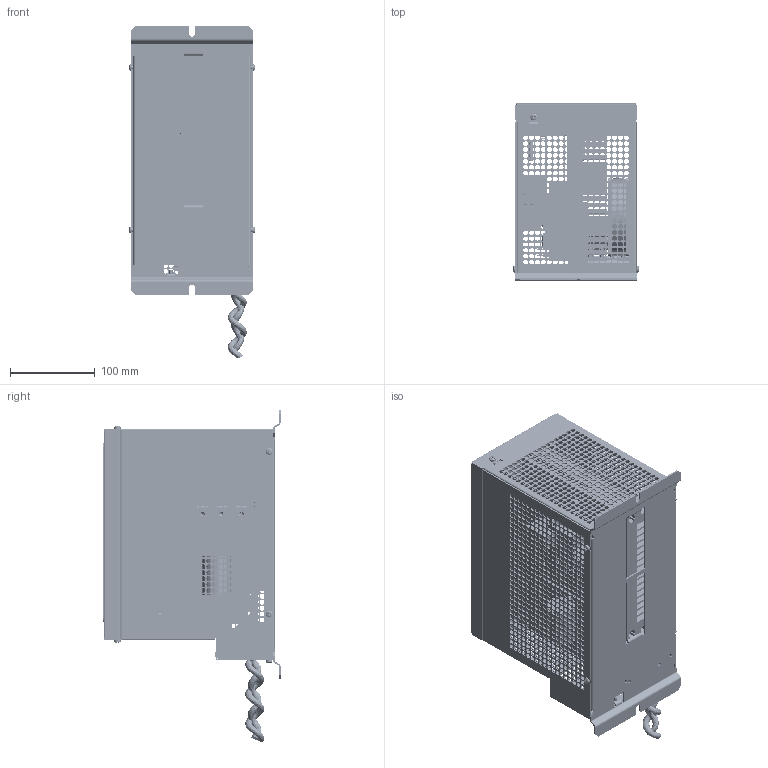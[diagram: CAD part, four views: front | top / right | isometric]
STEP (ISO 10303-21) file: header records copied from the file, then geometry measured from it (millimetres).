
FILE_DESCRIPTION((''),'2;1');
FILE_NAME('ESA3230','2015-09-11T',('giuseppe.bertuccio'),('GEFRAN S.p.A via Carducci,24 21040 Gerenzano (VA)'),'PRO/ENGINEER BY PARAMETRIC TECHNOLOGY CORPORATION, 2010480','PRO/ENGINEER BY PARAMETRIC TECHNOLOGY CORPORATION, 2010480','');
FILE_SCHEMA(('CONFIG_CONTROL_DESIGN'));
Products named in the file (46): EPZ3951; EPZ4110; FAN92X92; 6S8V50; S801V; 8S8F05; EAM2380; EAM1834; S8H75; ESE3139-MENTOR_AF0; RIVETTO_AF0; PHS1854330JSD_AF0; RIVETTO_AF1; RES_KP8W_AF1; RES_KP8W_AF0; RIVETTO_AF2; TO220AB_P10OR_AF0; ESE3139_1; ESE3036-MENTOR_AF0; LED_90; VERT_2P_500; COND_20P_1320; FILM_10P8_710_1260_AF6; RELE_175; RES_KP4W; PP; AMP2; MC1_5X5; FASTON; ESE3036_1; EPZ3149_1; S81E9; EAM1571_4; S82E0; S86N0; C-BUY; EPZ3955; EPZ3952_OLD; EPZ3952; EPZ3959_OLD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
Assembly tree (64 placements, depth 5):
  ESA3230
    EAM1798
      EPZ3951
      EAM1834
        EPZ4110
        EAM2380
          FAN92X92
          6S8V50
          S801V  x2
          8S8F05
      S8H75
      ESE3139_1
        ESE3139-MENTOR_AF0
        RIVETTO_AF0
        PHS1854330JSD_AF0
        RIVETTO_AF1
        RES_KP8W_AF1
        RES_KP8W_AF0
        RIVETTO_AF2
        TO220AB_P10OR_AF0
      ESE3036_1
        ESE3036-MENTOR_AF0
        LED_90  x4
        VERT_2P_500
        COND_20P_1320
        FILM_10P8_710_1260_AF6
        RELE_175
        RES_KP4W
        PP  x4
        AMP2  x3
        MC1_5X5
        FASTON  x2
      EPZ3149_1
      S81E9  x4
      EAM1571_4
      S82E0
      S86N0
      C-BUY
      EPZ3955
        EPZ3955
      EPZ3952
        EPZ3952_OLD
      EPZ3959_OLD
      8S8N09  x7
      EPZ4371
    EPZ4109_1
Bounding box: 148.8 x 209.25 x 392.34 mm (x, y, z)
Volume: 1429054.9 mm3; surface area: 993665.9 mm2
Topology: 58 solids, 58 shells, 19840 faces, 57822 edges, 38468 vertices
Faces by surface type: plane 11608, cylinder 8144, cone 32, sphere 28, torus 14, bspline 14
Entity records: 654563 total; most frequent: CARTESIAN_POINT 118405, ORIENTED_EDGE 112608, DIRECTION 111326, EDGE_CURVE 56304, VECTOR 39972, LINE 39972, VERTEX_POINT 37498, AXIS2_PLACEMENT_3D 35677
